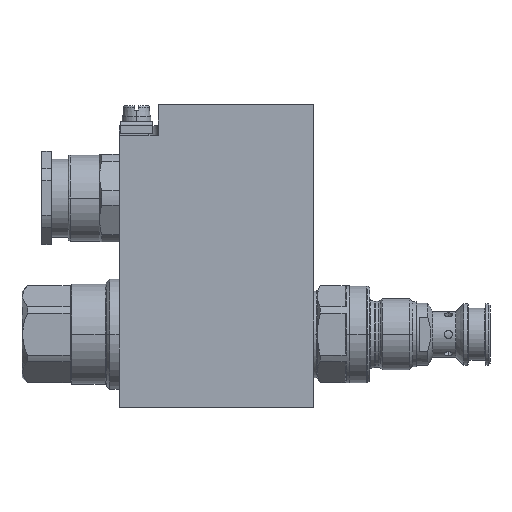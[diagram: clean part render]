
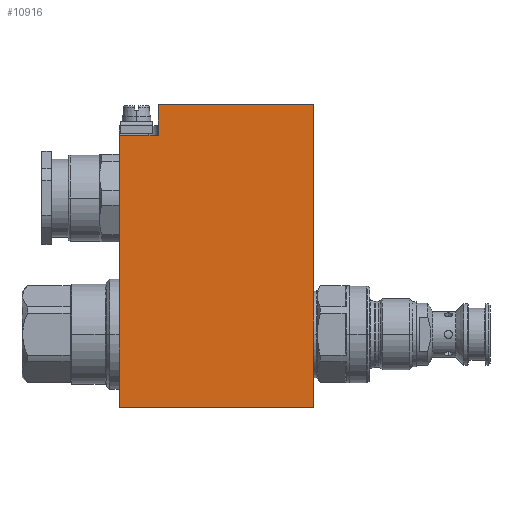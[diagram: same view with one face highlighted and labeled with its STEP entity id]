
A CAD part, top view. The second image highlights one B-rep face of the part: STEP entity #10916.
In plain terms, the highlighted planar face has unit normal (0, 0, 1).
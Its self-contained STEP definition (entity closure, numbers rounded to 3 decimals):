
#711 = CARTESIAN_POINT ( 'NONE',  ( -77.2, 61.3, 22.5 ) ) ;
#962 = EDGE_CURVE ( 'NONE', #14565, #12069, #9103, .T. ) ;
#1197 = ORIENTED_EDGE ( 'NONE', *, *, #7373, .F. ) ;
#1564 = VERTEX_POINT ( 'NONE', #16551 ) ;
#1782 = CARTESIAN_POINT ( 'NONE',  ( -17.2, -22.5, 22.5 ) ) ;
#2085 = VERTEX_POINT ( 'NONE', #8545 ) ;
#2545 = CARTESIAN_POINT ( 'NONE',  ( -17.2, -22.5, 22.5 ) ) ;
#3921 = LINE ( 'NONE', #15666, #5633 ) ;
#4336 = VECTOR ( 'NONE', #13766, 1000. ) ;
#4454 = ORIENTED_EDGE ( 'NONE', *, *, #5480, .F. ) ;
#4457 = CARTESIAN_POINT ( 'NONE',  ( -17.2, 70.8, 22.5 ) ) ;
#4936 = CARTESIAN_POINT ( 'NONE',  ( -65.2, 70.8, 22.5 ) ) ;
#5158 = CARTESIAN_POINT ( 'NONE',  ( -77.2, -22.5, 22.5 ) ) ;
#5246 = ORIENTED_EDGE ( 'NONE', *, *, #6036, .T. ) ;
#5480 = EDGE_CURVE ( 'NONE', #2085, #1564, #12487, .T. ) ;
#5633 = VECTOR ( 'NONE', #11951, 1000. ) ;
#6036 = EDGE_CURVE ( 'NONE', #14565, #10070, #16286, .T. ) ;
#6640 = EDGE_CURVE ( 'NONE', #2085, #16329, #12502, .T. ) ;
#6944 = DIRECTION ( 'NONE',  ( 0., -1., 0. ) ) ;
#7373 = EDGE_CURVE ( 'NONE', #12069, #16329, #7798, .T. ) ;
#7375 = AXIS2_PLACEMENT_3D ( 'NONE', #11864, #7870, #16874 ) ;
#7530 = ORIENTED_EDGE ( 'NONE', *, *, #962, .F. ) ;
#7616 = FACE_OUTER_BOUND ( 'NONE', #11135, .T. ) ;
#7786 = PLANE ( 'NONE',  #7375 ) ;
#7798 = LINE ( 'NONE', #7883, #10491 ) ;
#7870 = DIRECTION ( 'NONE',  ( 0., 0., -1. ) ) ;
#7883 = CARTESIAN_POINT ( 'NONE',  ( -17.2, -22.5, 22.5 ) ) ;
#8006 = VECTOR ( 'NONE', #16814, 1000. ) ;
#8545 = CARTESIAN_POINT ( 'NONE',  ( -77.2, 61.3, 22.5 ) ) ;
#8825 = ORIENTED_EDGE ( 'NONE', *, *, #15707, .F. ) ;
#9103 = LINE ( 'NONE', #2545, #8006 ) ;
#9737 = DIRECTION ( 'NONE',  ( -1., 0., 0. ) ) ;
#10070 = VERTEX_POINT ( 'NONE', #4936 ) ;
#10491 = VECTOR ( 'NONE', #11954, 1000. ) ;
#10620 = CARTESIAN_POINT ( 'NONE',  ( -17.2, 70.8, 22.5 ) ) ;
#10916 = ADVANCED_FACE ( 'NONE', ( #7616 ), #7786, .F. ) ;
#11135 = EDGE_LOOP ( 'NONE', ( #5246, #8825, #4454, #16255, #1197, #7530 ) ) ;
#11864 = CARTESIAN_POINT ( 'NONE',  ( -17.2, -22.5, 22.5 ) ) ;
#11951 = DIRECTION ( 'NONE',  ( 0., 1., 0. ) ) ;
#11954 = DIRECTION ( 'NONE',  ( -1., 0., 0. ) ) ;
#12069 = VERTEX_POINT ( 'NONE', #1782 ) ;
#12487 = LINE ( 'NONE', #711, #4336 ) ;
#12502 = LINE ( 'NONE', #14813, #16237 ) ;
#13766 = DIRECTION ( 'NONE',  ( 1., 0., 0. ) ) ;
#14301 = VECTOR ( 'NONE', #9737, 1000. ) ;
#14565 = VERTEX_POINT ( 'NONE', #10620 ) ;
#14813 = CARTESIAN_POINT ( 'NONE',  ( -77.2, -22.5, 22.5 ) ) ;
#15666 = CARTESIAN_POINT ( 'NONE',  ( -65.2, 61.3, 22.5 ) ) ;
#15707 = EDGE_CURVE ( 'NONE', #1564, #10070, #3921, .T. ) ;
#16237 = VECTOR ( 'NONE', #6944, 1000. ) ;
#16255 = ORIENTED_EDGE ( 'NONE', *, *, #6640, .T. ) ;
#16286 = LINE ( 'NONE', #4457, #14301 ) ;
#16329 = VERTEX_POINT ( 'NONE', #5158 ) ;
#16551 = CARTESIAN_POINT ( 'NONE',  ( -65.2, 61.3, 22.5 ) ) ;
#16814 = DIRECTION ( 'NONE',  ( 0., -1., 0. ) ) ;
#16874 = DIRECTION ( 'NONE',  ( -1., 0., 0. ) ) ;
